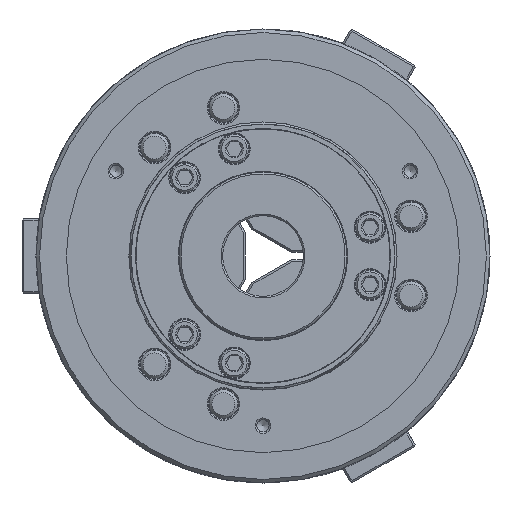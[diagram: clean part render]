
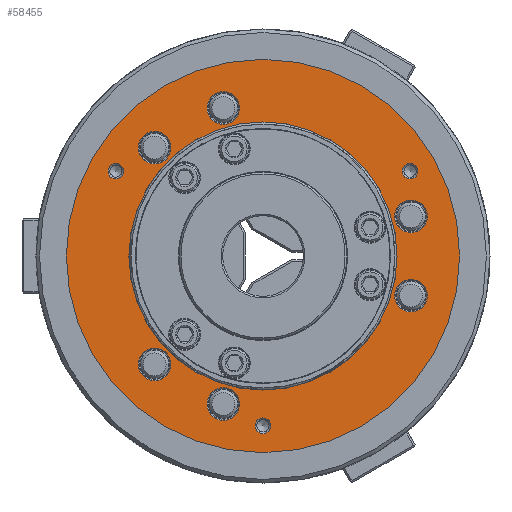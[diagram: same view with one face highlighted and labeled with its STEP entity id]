
A CAD part, left-side view. The second image highlights one B-rep face of the part: STEP entity #58455.
In plain terms, the highlighted planar face has unit normal (-1, 0, 0).
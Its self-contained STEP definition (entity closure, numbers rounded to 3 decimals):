
#13 = FACE_BOUND ( 'NONE', #63261, .T. ) ;
#120 = CARTESIAN_POINT ( 'NONE',  ( -95., 0., 0. ) ) ;
#499 = DIRECTION ( 'NONE',  ( 0., 0., -1. ) ) ;
#987 = AXIS2_PLACEMENT_3D ( 'NONE', #63473, #36692, #42392 ) ;
#1407 = CARTESIAN_POINT ( 'NONE',  ( -95., 22.187, -91.904 ) ) ;
#1499 = VERTEX_POINT ( 'NONE', #43477 ) ;
#1685 = CARTESIAN_POINT ( 'NONE',  ( -95., 60.617, -69.717 ) ) ;
#3823 = EDGE_LOOP ( 'NONE', ( #12702 ) ) ;
#3977 = DIRECTION ( 'NONE',  ( 1., 0., 0. ) ) ;
#4916 = EDGE_CURVE ( 'NONE', #15025, #15025, #37650, .T. ) ;
#5337 = FACE_BOUND ( 'NONE', #3823, .T. ) ;
#5427 = CARTESIAN_POINT ( 'NONE',  ( -95., 22.187, 82.804 ) ) ;
#6127 = VERTEX_POINT ( 'NONE', #38127 ) ;
#6471 = VERTEX_POINT ( 'NONE', #32770 ) ;
#6601 = AXIS2_PLACEMENT_3D ( 'NONE', #48179, #43138, #21098 ) ;
#6814 = DIRECTION ( 'NONE',  ( 0., 0., -1. ) ) ;
#7892 = EDGE_CURVE ( 'NONE', #6471, #6471, #47563, .T. ) ;
#8728 = CIRCLE ( 'NONE', #54234, 4.4 ) ;
#9336 = EDGE_CURVE ( 'NONE', #6127, #6127, #34405, .T. ) ;
#9699 = ORIENTED_EDGE ( 'NONE', *, *, #12505, .F. ) ;
#10010 = CARTESIAN_POINT ( 'NONE',  ( -95., -82.804, 22.187 ) ) ;
#10384 = AXIS2_PLACEMENT_3D ( 'NONE', #65975, #50630, #38834 ) ;
#10777 = AXIS2_PLACEMENT_3D ( 'NONE', #11136, #10783, #499 ) ;
#10783 = DIRECTION ( 'NONE',  ( 1., 0., 0. ) ) ;
#11136 = CARTESIAN_POINT ( 'NONE',  ( -95., 60.617, -60.617 ) ) ;
#12505 = EDGE_CURVE ( 'NONE', #1499, #1499, #8728, .T. ) ;
#12702 = ORIENTED_EDGE ( 'NONE', *, *, #16012, .F. ) ;
#13136 = AXIS2_PLACEMENT_3D ( 'NONE', #19099, #63264, #29409 ) ;
#14748 = EDGE_CURVE ( 'NONE', #50244, #50244, #58906, .T. ) ;
#15025 = VERTEX_POINT ( 'NONE', #53149 ) ;
#15381 = CIRCLE ( 'NONE', #13136, 9.1 ) ;
#16012 = EDGE_CURVE ( 'NONE', #48859, #48859, #60477, .T. ) ;
#16463 = DIRECTION ( 'NONE',  ( -1., 0., 0. ) ) ;
#16863 = ORIENTED_EDGE ( 'NONE', *, *, #7892, .F. ) ;
#17051 = FACE_BOUND ( 'NONE', #70237, .T. ) ;
#17670 = CARTESIAN_POINT ( 'NONE',  ( -95., 60.617, 51.517 ) ) ;
#19099 = CARTESIAN_POINT ( 'NONE',  ( -95., 22.187, -82.804 ) ) ;
#19218 = EDGE_LOOP ( 'NONE', ( #16863 ) ) ;
#20826 = ORIENTED_EDGE ( 'NONE', *, *, #9336, .T. ) ;
#21091 = DIRECTION ( 'NONE',  ( 0., 0., 1. ) ) ;
#21098 = DIRECTION ( 'NONE',  ( 0., 0., 1. ) ) ;
#21243 = EDGE_LOOP ( 'NONE', ( #45246 ) ) ;
#21622 = DIRECTION ( 'NONE',  ( 0., 0., 1. ) ) ;
#21674 = CARTESIAN_POINT ( 'NONE',  ( -95., 110., 0. ) ) ;
#22028 = DIRECTION ( 'NONE',  ( 1., 0., 0. ) ) ;
#22038 = VERTEX_POINT ( 'NONE', #65164 ) ;
#22660 = CARTESIAN_POINT ( 'NONE',  ( -95., 82.272, 47.5 ) ) ;
#22704 = FACE_OUTER_BOUND ( 'NONE', #56671, .T. ) ;
#22917 = EDGE_LOOP ( 'NONE', ( #69931 ) ) ;
#24166 = CARTESIAN_POINT ( 'NONE',  ( -95., -82.804, -22.187 ) ) ;
#25059 = EDGE_CURVE ( 'NONE', #59099, #59099, #63257, .T. ) ;
#27353 = DIRECTION ( 'NONE',  ( 0., 0., -1. ) ) ;
#28683 = VERTEX_POINT ( 'NONE', #1685 ) ;
#29409 = DIRECTION ( 'NONE',  ( 0., 0., -1. ) ) ;
#29712 = AXIS2_PLACEMENT_3D ( 'NONE', #120, #16463, #21091 ) ;
#29769 = EDGE_LOOP ( 'NONE', ( #50955 ) ) ;
#32334 = FACE_BOUND ( 'NONE', #21243, .T. ) ;
#32499 = AXIS2_PLACEMENT_3D ( 'NONE', #10010, #3977, #42373 ) ;
#32680 = DIRECTION ( 'NONE',  ( 1., 0., 0. ) ) ;
#32770 = CARTESIAN_POINT ( 'NONE',  ( -95., 0., -90.6 ) ) ;
#34405 = CIRCLE ( 'NONE', #36756, 9.1 ) ;
#36692 = DIRECTION ( 'NONE',  ( -1., 0., 0. ) ) ;
#36756 = AXIS2_PLACEMENT_3D ( 'NONE', #24166, #50923, #56248 ) ;
#37650 = CIRCLE ( 'NONE', #10384, 4.4 ) ;
#37783 = EDGE_CURVE ( 'NONE', #22038, #22038, #44561, .T. ) ;
#38127 = CARTESIAN_POINT ( 'NONE',  ( -95., -82.804, -31.287 ) ) ;
#38720 = FACE_BOUND ( 'NONE', #65148, .T. ) ;
#38834 = DIRECTION ( 'NONE',  ( 0., 0., 1. ) ) ;
#38994 = AXIS2_PLACEMENT_3D ( 'NONE', #21674, #32680, #54458 ) ;
#39518 = CARTESIAN_POINT ( 'NONE',  ( -95., 0., 110. ) ) ;
#40020 = AXIS2_PLACEMENT_3D ( 'NONE', #5427, #43474, #6814 ) ;
#40866 = EDGE_CURVE ( 'NONE', #62600, #62600, #15381, .T. ) ;
#41273 = CARTESIAN_POINT ( 'NONE',  ( -95., -82.804, 13.087 ) ) ;
#42373 = DIRECTION ( 'NONE',  ( 0., 0., -1. ) ) ;
#42392 = DIRECTION ( 'NONE',  ( 0., 0., 1. ) ) ;
#43138 = DIRECTION ( 'NONE',  ( -1., 0., 0. ) ) ;
#43474 = DIRECTION ( 'NONE',  ( 1., 0., 0. ) ) ;
#43477 = CARTESIAN_POINT ( 'NONE',  ( -95., 82.272, 51.9 ) ) ;
#43519 = ORIENTED_EDGE ( 'NONE', *, *, #67144, .T. ) ;
#43738 = CARTESIAN_POINT ( 'NONE',  ( -95., 60.617, 60.617 ) ) ;
#44082 = FACE_BOUND ( 'NONE', #69065, .T. ) ;
#44421 = FACE_BOUND ( 'NONE', #29769, .T. ) ;
#44561 = CIRCLE ( 'NONE', #40020, 9.1 ) ;
#45246 = ORIENTED_EDGE ( 'NONE', *, *, #69725, .T. ) ;
#46474 = ORIENTED_EDGE ( 'NONE', *, *, #37783, .T. ) ;
#47434 = ORIENTED_EDGE ( 'NONE', *, *, #14748, .T. ) ;
#47563 = CIRCLE ( 'NONE', #987, 4.4 ) ;
#47963 = AXIS2_PLACEMENT_3D ( 'NONE', #43738, #22028, #27353 ) ;
#48179 = CARTESIAN_POINT ( 'NONE',  ( -95., 0., 0. ) ) ;
#48722 = DIRECTION ( 'NONE',  ( -1., 0., 0. ) ) ;
#48770 = PLANE ( 'NONE',  #38994 ) ;
#48859 = VERTEX_POINT ( 'NONE', #50964 ) ;
#50244 = VERTEX_POINT ( 'NONE', #39518 ) ;
#50630 = DIRECTION ( 'NONE',  ( -1., 0., 0. ) ) ;
#50923 = DIRECTION ( 'NONE',  ( 1., 0., 0. ) ) ;
#50955 = ORIENTED_EDGE ( 'NONE', *, *, #4916, .F. ) ;
#50964 = CARTESIAN_POINT ( 'NONE',  ( -95., 0., 75. ) ) ;
#53149 = CARTESIAN_POINT ( 'NONE',  ( -95., -82.272, 51.9 ) ) ;
#54234 = AXIS2_PLACEMENT_3D ( 'NONE', #22660, #48722, #21622 ) ;
#54458 = DIRECTION ( 'NONE',  ( 0., 0., -1. ) ) ;
#55160 = FACE_BOUND ( 'NONE', #70083, .T. ) ;
#55755 = VERTEX_POINT ( 'NONE', #17670 ) ;
#56248 = DIRECTION ( 'NONE',  ( 0., 0., -1. ) ) ;
#56671 = EDGE_LOOP ( 'NONE', ( #47434 ) ) ;
#58292 = ORIENTED_EDGE ( 'NONE', *, *, #25059, .T. ) ;
#58455 = ADVANCED_FACE ( 'NONE', ( #44082, #44421, #65852, #32334, #13, #17051, #59804, #38720, #55160, #5337, #22704 ), #48770, .F. ) ;
#58906 = CIRCLE ( 'NONE', #6601, 110. ) ;
#59099 = VERTEX_POINT ( 'NONE', #41273 ) ;
#59804 = FACE_BOUND ( 'NONE', #19218, .T. ) ;
#60477 = CIRCLE ( 'NONE', #29712, 75. ) ;
#62600 = VERTEX_POINT ( 'NONE', #1407 ) ;
#63103 = CIRCLE ( 'NONE', #10777, 9.1 ) ;
#63257 = CIRCLE ( 'NONE', #32499, 9.1 ) ;
#63261 = EDGE_LOOP ( 'NONE', ( #43519 ) ) ;
#63264 = DIRECTION ( 'NONE',  ( 1., 0., 0. ) ) ;
#63473 = CARTESIAN_POINT ( 'NONE',  ( -95., 0., -95. ) ) ;
#65148 = EDGE_LOOP ( 'NONE', ( #58292 ) ) ;
#65164 = CARTESIAN_POINT ( 'NONE',  ( -95., 22.187, 73.704 ) ) ;
#65852 = FACE_BOUND ( 'NONE', #22917, .T. ) ;
#65975 = CARTESIAN_POINT ( 'NONE',  ( -95., -82.272, 47.5 ) ) ;
#67144 = EDGE_CURVE ( 'NONE', #55755, #55755, #69593, .T. ) ;
#69065 = EDGE_LOOP ( 'NONE', ( #9699 ) ) ;
#69593 = CIRCLE ( 'NONE', #47963, 9.1 ) ;
#69725 = EDGE_CURVE ( 'NONE', #28683, #28683, #63103, .T. ) ;
#69931 = ORIENTED_EDGE ( 'NONE', *, *, #40866, .T. ) ;
#70083 = EDGE_LOOP ( 'NONE', ( #20826 ) ) ;
#70237 = EDGE_LOOP ( 'NONE', ( #46474 ) ) ;
